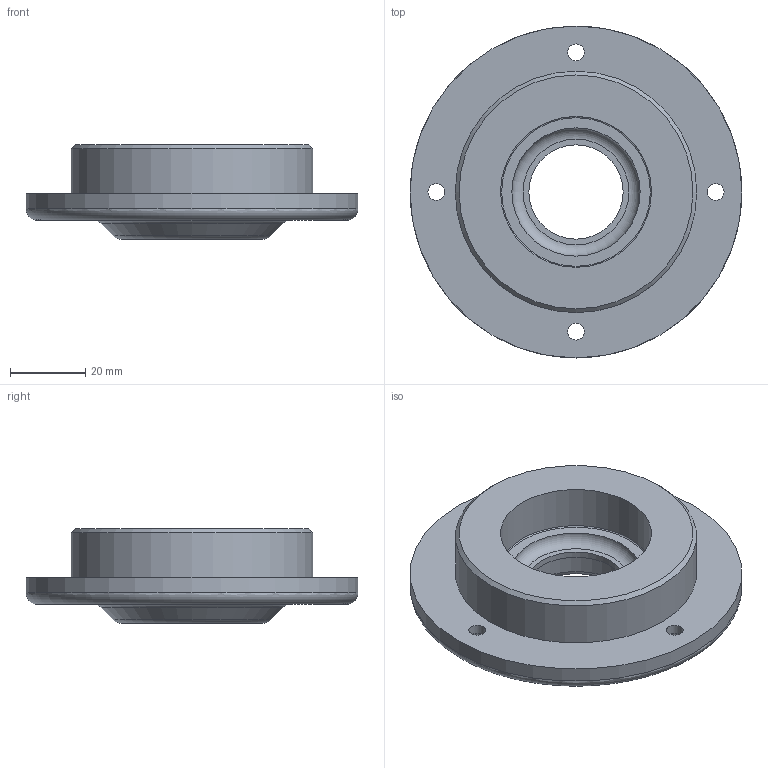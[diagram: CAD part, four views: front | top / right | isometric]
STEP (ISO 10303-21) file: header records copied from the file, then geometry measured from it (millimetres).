
FILE_DESCRIPTION(/* description */ (''),/* implementation_level */ '2;1');
FILE_NAME(/* name */ '',/* time_stamp */ '2025-04-29T13:07:49+09:00',/* author */ ('jhkim'),/* organization */ ('한국ATC센터'),/* preprocessor_version */ 'ST-DEVELOPER v20.1',/* originating_system */ 'Autodesk Inventor 2026',/* authorisation */ '');
FILE_SCHEMA (('AUTOMOTIVE_DESIGN { 1 0 10303 214 3 1 1 }'));
Length unit declared in the file: millimetre
Products named in the file (1): 측면 커버
Bounding box: 88 x 88 x 25 mm (x, y, z)
Volume: 65558.5 mm3; surface area: 18547 mm2
Topology: 1 solids, 1 shells, 33 faces, 67 edges, 41 vertices
Faces by surface type: cylinder 13, plane 11, torus 6, cone 3
Full cylindrical faces by diameter (mm): 4.5 x4, 8 x4, 25 x1, 32 x1, 40 x1, 64 x1, 88 x1
Entity records: 947 total; most frequent: DIRECTION 186, CARTESIAN_POINT 142, ORIENTED_EDGE 134, AXIS2_PLACEMENT_3D 85, EDGE_CURVE 67, CIRCLE 51, EDGE_LOOP 48, VERTEX_POINT 41
